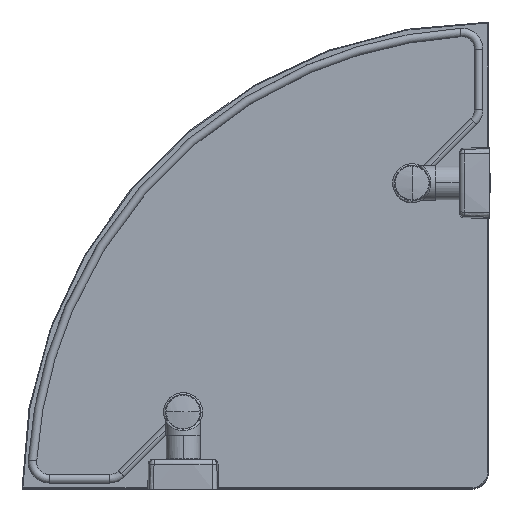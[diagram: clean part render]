
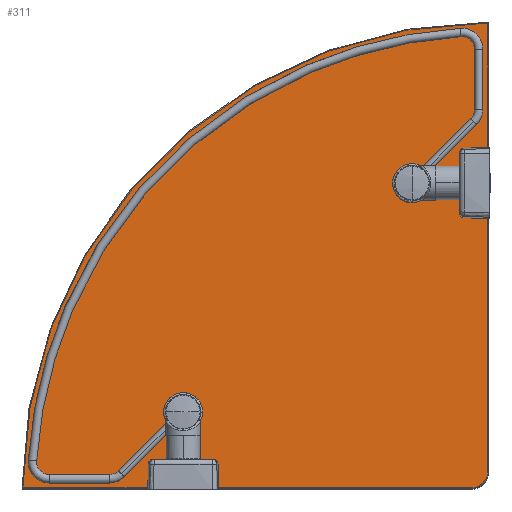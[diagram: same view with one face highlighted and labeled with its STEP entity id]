
A CAD part, top view. The second image highlights one B-rep face of the part: STEP entity #311.
In plain terms, the highlighted planar face has unit normal (0, 0, 1).
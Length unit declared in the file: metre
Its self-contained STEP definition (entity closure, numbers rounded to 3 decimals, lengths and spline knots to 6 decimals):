
#32=VERTEX_POINT('',#33);
#33=CARTESIAN_POINT('',(0.141,0.1629,-0.0791));
#39=EDGE_CURVE('',#40,#32,#42,.T.);
#40=VERTEX_POINT('',#41);
#41=CARTESIAN_POINT('',(0.129,0.1629,-0.0791));
#42=CIRCLE('',#43,0.006);
#43=AXIS2_PLACEMENT_3D('',#44,#45,#46);
#44=CARTESIAN_POINT('',(0.135,0.1629,-0.0791));
#45=DIRECTION('',(0.0,0.0,-1.0));
#46=DIRECTION('',(-1.0,0.0,0.0));
#74=VERTEX_POINT('',#75);
#75=CARTESIAN_POINT('',(0.006,0.0279,-0.0791));
#81=EDGE_CURVE('',#82,#74,#84,.T.);
#82=VERTEX_POINT('',#83);
#83=CARTESIAN_POINT('',(-0.006,0.0279,-0.0791));
#84=CIRCLE('',#85,0.006);
#85=AXIS2_PLACEMENT_3D('',#86,#87,#88);
#86=CARTESIAN_POINT('',(0.0,0.0279,-0.0791));
#87=DIRECTION('',(0.0,0.0,-1.0));
#88=DIRECTION('',(-1.0,0.0,0.0));
#212=CARTESIAN_POINT('',(0.006,0.0279,-0.0791));
#213=EDGE_CURVE('',#74,#82,#214,.T.);
#214=(B_SPLINE_CURVE(3,(#212,#215,#216,#217),.UNSPECIFIED.,.F.,.U.)B_SPLINE_CURVE_WITH_KNOTS(
  (4,4),(0.0,1.0),.UNSPECIFIED.)BOUNDED_CURVE()CURVE()GEOMETRIC_REPRESENTATION_ITEM(
  )RATIONAL_B_SPLINE_CURVE((1.0,0.333,0.333,1.0)
  )REPRESENTATION_ITEM(''));
#215=CARTESIAN_POINT('',(0.006,0.0159,-0.0791));
#216=CARTESIAN_POINT('',(-0.006,0.0159,-0.0791));
#217=CARTESIAN_POINT('',(-0.006,0.0279,-0.0791));
#231=CARTESIAN_POINT('',(0.141,0.1629,-0.0791));
#232=EDGE_CURVE('',#32,#40,#233,.T.);
#233=(B_SPLINE_CURVE(3,(#231,#234,#235,#236),.UNSPECIFIED.,.F.,.U.)B_SPLINE_CURVE_WITH_KNOTS(
  (4,4),(0.0,1.0),.UNSPECIFIED.)BOUNDED_CURVE()CURVE()GEOMETRIC_REPRESENTATION_ITEM(
  )RATIONAL_B_SPLINE_CURVE((1.0,0.333,0.333,1.0)
  )REPRESENTATION_ITEM(''));
#234=CARTESIAN_POINT('',(0.141,0.1509,-0.0791));
#235=CARTESIAN_POINT('',(0.129,0.1509,-0.0791));
#236=CARTESIAN_POINT('',(0.129,0.1629,-0.0791));
#311=ADVANCED_FACE('',(#317,#353,#357),#312,.F.);
#312=PLANE('',#313);
#313=AXIS2_PLACEMENT_3D('',#314,#315,#316);
#314=CARTESIAN_POINT('',(0.18,-0.0171,-0.0791));
#315=DIRECTION('',(0.0,0.0,-1.0));
#316=DIRECTION('',(0.0,-1.0,0.0));
#317=FACE_OUTER_BOUND('',#318,.T.);
#318=EDGE_LOOP('',(#319,#330,#338,#347));
#319=ORIENTED_EDGE('',*,*,#320,.T.);
#320=EDGE_CURVE('',#321,#323,#325,.F.);
#321=VERTEX_POINT('',#322);
#322=CARTESIAN_POINT('',(0.1795,0.2574,-0.0791));
#323=VERTEX_POINT('',#324);
#324=CARTESIAN_POINT('',(-0.0945,-0.0166,-0.0791));
#325=CIRCLE('',#326,0.2745);
#326=AXIS2_PLACEMENT_3D('',#327,#328,#329);
#327=CARTESIAN_POINT('',(0.18,-0.0171,-0.0791));
#328=DIRECTION('',(0.0,0.0,-1.0));
#329=DIRECTION('',(-1.0,0.0,0.0));
#330=ORIENTED_EDGE('',*,*,#331,.T.);
#331=EDGE_CURVE('',#323,#332,#334,.T.);
#332=VERTEX_POINT('',#333);
#333=CARTESIAN_POINT('',(0.17,-0.0166,-0.0791));
#334=LINE('',#335,#336);
#335=CARTESIAN_POINT('',(0.18,-0.0166,-0.0791));
#336=VECTOR('',#337,1.0);
#337=DIRECTION('',(1.0,0.,0.0));
#338=ORIENTED_EDGE('',*,*,#339,.T.);
#339=EDGE_CURVE('',#332,#340,#342,.F.);
#340=VERTEX_POINT('',#341);
#341=CARTESIAN_POINT('',(0.1795,-0.0071,-0.0791));
#342=CIRCLE('',#343,0.0095);
#343=AXIS2_PLACEMENT_3D('',#344,#345,#346);
#344=CARTESIAN_POINT('',(0.17,-0.0071,-0.0791));
#345=DIRECTION('',(0.0,0.0,-1.0));
#346=DIRECTION('',(-1.0,0.0,0.0));
#347=ORIENTED_EDGE('',*,*,#348,.T.);
#348=EDGE_CURVE('',#340,#321,#349,.T.);
#349=LINE('',#350,#351);
#350=CARTESIAN_POINT('',(0.1795,-0.0171,-0.0791));
#351=VECTOR('',#352,1.0);
#352=DIRECTION('',(0.0,1.0,0.0));
#353=FACE_BOUND('',#354,.T.);
#354=EDGE_LOOP('',(#355,#356));
#355=ORIENTED_EDGE('',*,*,#39,.T.);
#356=ORIENTED_EDGE('',*,*,#232,.T.);
#357=FACE_BOUND('',#358,.T.);
#358=EDGE_LOOP('',(#359,#360));
#359=ORIENTED_EDGE('',*,*,#81,.T.);
#360=ORIENTED_EDGE('',*,*,#213,.T.);
